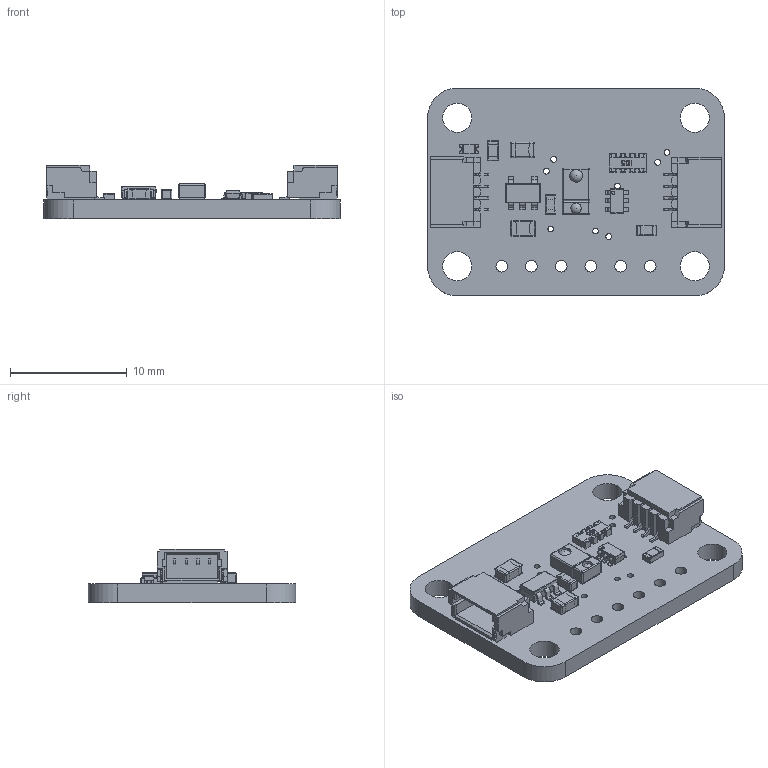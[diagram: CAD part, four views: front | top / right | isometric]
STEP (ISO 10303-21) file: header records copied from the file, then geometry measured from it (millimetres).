
FILE_DESCRIPTION(/* description */ (''),/* implementation_level */ '2;1');
FILE_NAME(/* name */ '/Users/Brey/Desktop/Adafruit_Sparkfun_Boards/APDS9960_STEMMA_QT/Adafruit APDS9960 STEMMA QT.step',/* time_stamp */ '2022-04-03T14:25:13-05:00',/* author */ (''),/* organization */ (''),/* preprocessor_version */ 'ST-DEVELOPER v18.1',/* originating_system */ 'Autodesk Translation Framework v10.14.0.1471',/* authorisation */ '');
FILE_SCHEMA (('AUTOMOTIVE_DESIGN { 1 0 10303 214 3 1 1 }'));
Length unit declared in the file: millimetre
Products named in the file (11): Adafruit APDS9960 STEMMA QT; Printed Circuit Board; APDS-9960; LED 0603 single color; SOT23-5; SOT23-6; YC164_RESPACK; CAPC-0603-T0.9-BN; CAPC-0805-T0.95-BN; RESC-0603; qwicc
Assembly tree (13 placements, depth 2):
  Adafruit APDS9960 STEMMA QT
    Printed Circuit Board
    APDS-9960
    LED 0603 single color
    SOT23-5
    SOT23-6
    YC164_RESPACK
    CAPC-0603-T0.9-BN
    CAPC-0805-T0.95-BN  x2
    RESC-0603  x2
    qwicc  x2
Bounding box: 25.4 x 17.78 x 4.55 mm (x, y, z)
Volume: 780.4 mm3; surface area: 1645.1 mm2
Topology: 52 solids, 54 shells, 1198 faces, 3106 edges, 1987 vertices
Faces by surface type: plane 795, cylinder 275, bspline 94, sphere 34
Full cylindrical faces by diameter (mm): 0.483 x2, 0.5 x12, 0.9 x1, 1 x6, 1.1 x1, 2.5 x4
Entity records: 29772 total; most frequent: CARTESIAN_POINT 8298, ORIENTED_EDGE 4410, DIRECTION 4048, EDGE_CURVE 2206, LINE 1606, VECTOR 1606, VERTEX_POINT 1417, AXIS2_PLACEMENT_3D 1221
